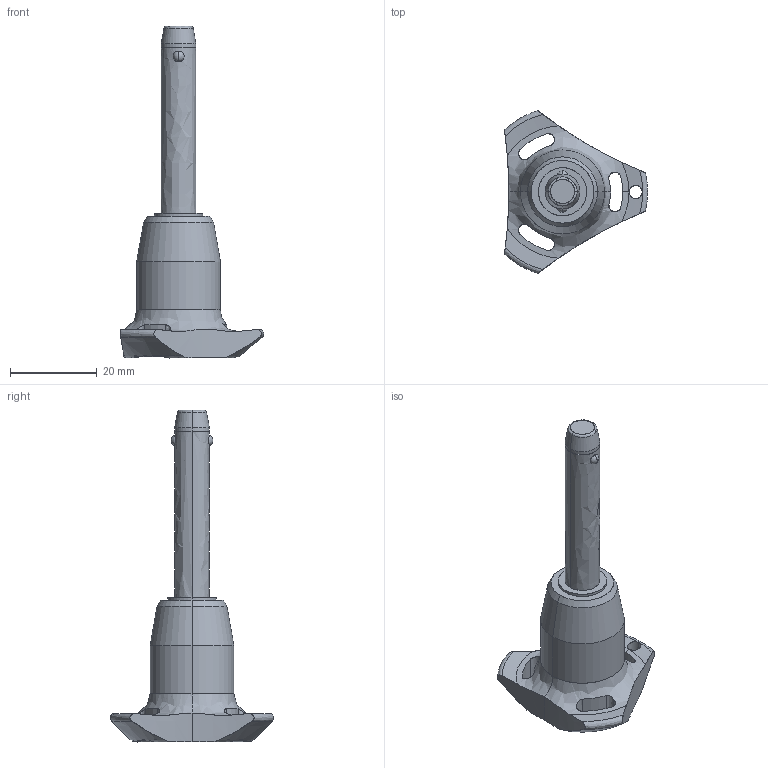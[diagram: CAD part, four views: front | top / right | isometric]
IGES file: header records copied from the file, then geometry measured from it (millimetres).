
Start section: SolidWorks IGES file using analytic representation for surfaces
Global section: file name: C:\Users\ianosborn\Desktop\QR1716_v2\QR1716_v2_20251114_IGES\QR1716.M08-035-T.igs; native system: SolidWorks 2019; preprocessor: SolidWorks 2019; author: IanOsborn; date: 251113.103011; units: millimetre
Bounding box: 33 x 37.51 x 76.5 mm (x, y, z)
Surface area: 4934.4 mm2 (no closed solid volume)
Topology: 0 solids, 0 shells, 68 faces, 1346 edges, 1342 vertices
Faces by surface type: revolution 52, bspline 16
